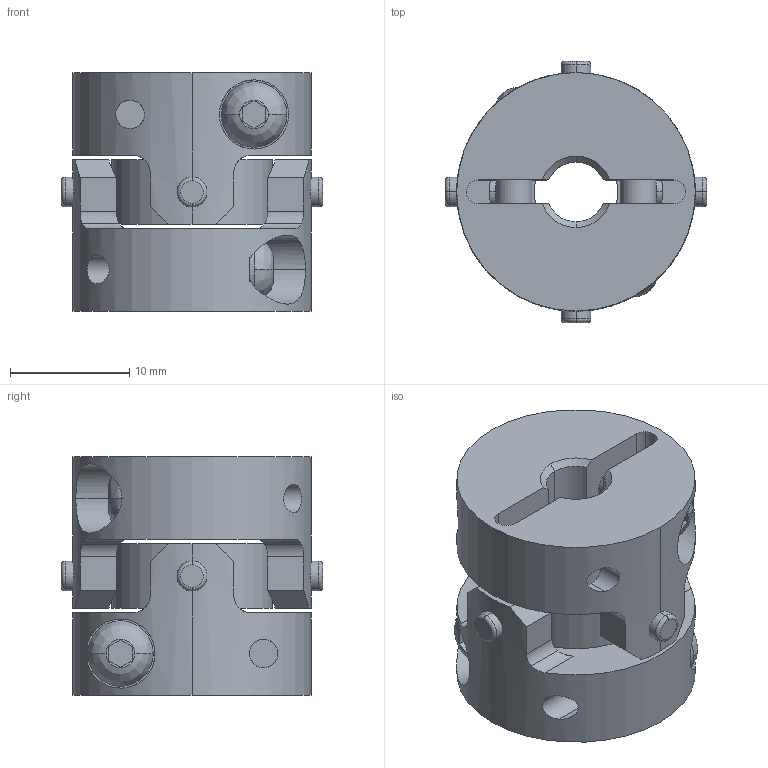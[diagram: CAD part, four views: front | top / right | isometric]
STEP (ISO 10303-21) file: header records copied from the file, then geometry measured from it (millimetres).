
FILE_DESCRIPTION((''),'2;1');
FILE_NAME('UA-20C-5×8.stp','2013-05-16T09:08:21',(''),(''),'AutoCAD STEP 2000i','AutoCAD 2000i',', , ');
FILE_SCHEMA(('CONFIG_CONTROL_DESIGN'));
Length unit declared in the file: millimetre
Products named in the file (7): UA-20C-4×7; 忣兜1; UA-2002-D07; BTN-M3; UA-2002-D04-1; UA-2002-D04; UA20-SEN
Assembly tree (8 placements, depth 3):
  UA-20C-4×7
    忣兜1
    UA-2002-D07
      BTN-M3
    UA-2002-D04-1
      BTN-M3
    UA-2002-D04
      BTN-M3
    UA20-SEN
Bounding box: 21.89 x 21.89 x 20 mm (x, y, z)
Volume: 4374.3 mm3; surface area: 3837.3 mm2
Topology: 1 solids, 1 shells, 206 faces, 554 edges, 364 vertices
Faces by surface type: cylinder 96, plane 78, cone 16, bspline 8, torus 8
Entity records: 8025 total; most frequent: CARTESIAN_POINT 2689, ORIENTED_EDGE 1108, DIRECTION 1068, EDGE_CURVE 554, AXIS2_PLACEMENT_3D 411, VERTEX_POINT 364, VECTOR 246, LINE 246
